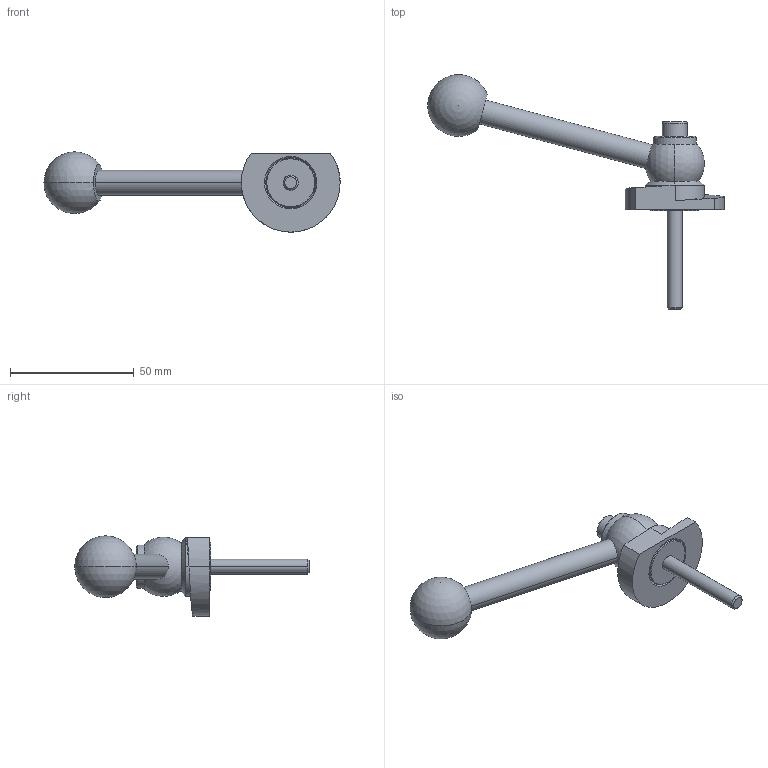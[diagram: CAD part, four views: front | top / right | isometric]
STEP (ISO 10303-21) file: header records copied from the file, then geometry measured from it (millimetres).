
FILE_DESCRIPTION (( 'STEP AP214' ), '1' );
FILE_NAME ('918.1-40-KVS-R-40.step', '2024-05-15T13:00:28', ( '' ), ( '' ), 'SwSTEP 2.0', 'SolidWorks 2022', '' );
FILE_SCHEMA (( 'AUTOMOTIVE_DESIGN' ));
Length unit declared in the file: millimetre
Products named in the file (1): 918.1-40-KVS-R-40
Bounding box: 119.95 x 94.99 x 32.5 mm (x, y, z)
Volume: 30881.1 mm3; surface area: 11590.1 mm2
Topology: 1 solids, 1 shells, 64 faces, 147 edges, 93 vertices
Faces by surface type: cylinder 22, plane 20, cone 14, sphere 4, torus 2, bspline 2
Entity records: 2045 total; most frequent: CARTESIAN_POINT 590, DIRECTION 321, ORIENTED_EDGE 274, EDGE_CURVE 137, AXIS2_PLACEMENT_3D 131, VERTEX_POINT 87, EDGE_LOOP 76, CIRCLE 68
